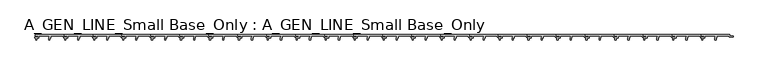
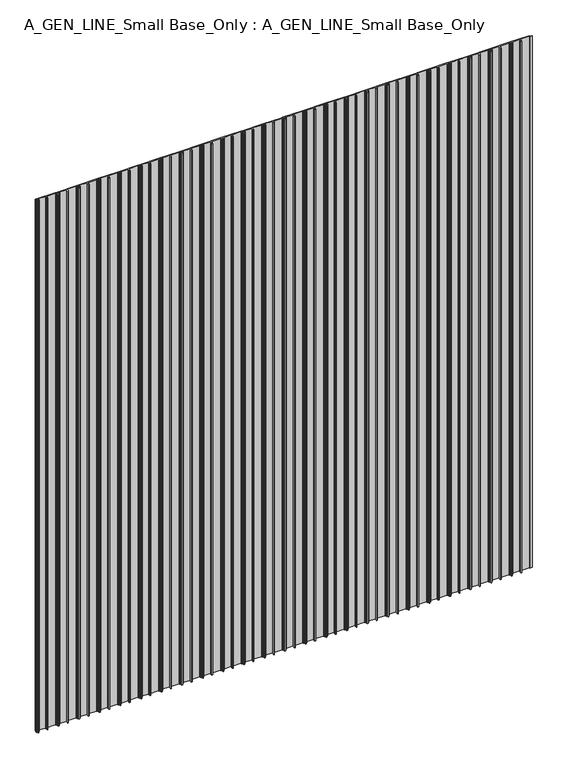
"""IFC4 building model written with IfcOpenShell, lengths in millimetres: proxy geometry, A_GEN_LINE_Small Base_Only : A_GEN_LINE_Small Base_Only."""

from ifc_helpers import new_model, si_unit, origin, origin_with_axes, place, context, project, spatial, polyline, outline, extrude, source, transform, mapped, element, save


def a_gen_line_small_base_only_a_gen_line_small_base_only_1122f738(model_context):
    return source(origin(), model_context, "Body", "SweptSolid", [
        extrude(outline(polyline([(1265.0, 0.0), (1319.5728944, 0.0), (1319.5728944, -2.85), (1325.5728944, -2.85), (1325.5728944, -4.2), (1318.0545393, -4.2), (1318.0545393, -2.4), (1294.5849719, -2.4), (1294.5849719, -6.1021884), (1293.4699984, -6.1021884), (1291.8814326, -8.4994005), (1293.1433665, -8.4994005), (1293.1433665, -10.4818695), (1290.9408405, -10.4818695), (1290.9408405, -5.6343123), (1293.0399616, -2.4), (1272.2195527, -2.4), (1272.2195527, -6.1), (1268.2291033, -6.1), (1268.2291033, -10.4818695), (1266.0265772, -10.4818695), (1266.0265772, -8.4994005), (1267.2885111, -8.4994005), (1265.6999453, -6.1021884), (1264.6137598, -6.1021884), (1264.6137598, -4.9), (1271.0195527, -4.9), (1271.0195527, -2.7), (1265.0, -2.7), (1265.0, 0.0)])), origin_with_axes(), (0.0, 0.0, 1.0), 1500.0),
        extrude(outline(polyline([(1210.0, 0.0), (1264.5728944, 0.0), (1264.5728944, -2.85), (1270.5728944, -2.85), (1270.5728944, -4.2), (1263.0545393, -4.2), (1263.0545393, -2.4), (1239.5849719, -2.4), (1239.5849719, -6.1021884), (1238.4699984, -6.1021884), (1236.8814326, -8.4994005), (1238.1433665, -8.4994005), (1238.1433665, -10.4818695), (1235.9408405, -10.4818695), (1235.9408405, -5.6343123), (1238.0399616, -2.4), (1217.2195527, -2.4), (1217.2195527, -6.1), (1213.2291033, -6.1), (1213.2291033, -10.4818695), (1211.0265772, -10.4818695), (1211.0265772, -8.4994005), (1212.2885111, -8.4994005), (1210.6999453, -6.1021884), (1209.6137598, -6.1021884), (1209.6137598, -4.9), (1216.0195527, -4.9), (1216.0195527, -2.7), (1210.0, -2.7), (1210.0, 0.0)])), origin_with_axes(), (0.0, 0.0, 1.0), 1500.0),
        extrude(outline(polyline([(1155.0, 0.0), (1209.5728944, 0.0), (1209.5728944, -2.85), (1215.5728944, -2.85), (1215.5728944, -4.2), (1208.0545393, -4.2), (1208.0545393, -2.4), (1184.5849719, -2.4), (1184.5849719, -6.1021884), (1183.4699984, -6.1021884), (1181.8814326, -8.4994005), (1183.1433665, -8.4994005), (1183.1433665, -10.4818695), (1180.9408405, -10.4818695), (1180.9408405, -5.6343123), (1183.0399616, -2.4), (1162.2195527, -2.4), (1162.2195527, -6.1), (1158.2291033, -6.1), (1158.2291033, -10.4818695), (1156.0265772, -10.4818695), (1156.0265772, -8.4994005), (1157.2885111, -8.4994005), (1155.6999453, -6.1021884), (1154.6137598, -6.1021884), (1154.6137598, -4.9), (1161.0195527, -4.9), (1161.0195527, -2.7), (1155.0, -2.7), (1155.0, 0.0)])), origin_with_axes(), (0.0, 0.0, 1.0), 1500.0),
        extrude(outline(polyline([(1100.0, 0.0), (1154.5728944, 0.0), (1154.5728944, -2.85), (1160.5728944, -2.85), (1160.5728944, -4.2), (1153.0545393, -4.2), (1153.0545393, -2.4), (1129.5849719, -2.4), (1129.5849719, -6.1021884), (1128.4699984, -6.1021884), (1126.8814326, -8.4994005), (1128.1433665, -8.4994005), (1128.1433665, -10.4818695), (1125.9408405, -10.4818695), (1125.9408405, -5.6343123), (1128.0399616, -2.4), (1107.2195527, -2.4), (1107.2195527, -6.1), (1103.2291033, -6.1), (1103.2291033, -10.4818695), (1101.0265772, -10.4818695), (1101.0265772, -8.4994005), (1102.2885111, -8.4994005), (1100.6999453, -6.1021884), (1099.6137598, -6.1021884), (1099.6137598, -4.9), (1106.0195527, -4.9), (1106.0195527, -2.7), (1100.0, -2.7), (1100.0, 0.0)])), origin_with_axes(), (0.0, 0.0, 1.0), 1500.0),
        extrude(outline(polyline([(1045.0, 0.0), (1099.5728944, 0.0), (1099.5728944, -2.85), (1105.5728944, -2.85), (1105.5728944, -4.2), (1098.0545393, -4.2), (1098.0545393, -2.4), (1074.5849719, -2.4), (1074.5849719, -6.1021884), (1073.4699984, -6.1021884), (1071.8814326, -8.4994005), (1073.1433665, -8.4994005), (1073.1433665, -10.4818695), (1070.9408405, -10.4818695), (1070.9408405, -5.6343123), (1073.0399616, -2.4), (1052.2195527, -2.4), (1052.2195527, -6.1), (1048.2291033, -6.1), (1048.2291033, -10.4818695), (1046.0265772, -10.4818695), (1046.0265772, -8.4994005), (1047.2885111, -8.4994005), (1045.6999453, -6.1021884), (1044.6137598, -6.1021884), (1044.6137598, -4.9), (1051.0195527, -4.9), (1051.0195527, -2.7), (1045.0, -2.7), (1045.0, 0.0)])), origin_with_axes(), (0.0, 0.0, 1.0), 1500.0),
        extrude(outline(polyline([(990.0, 0.0), (1044.5728944, 0.0), (1044.5728944, -2.85), (1050.5728944, -2.85), (1050.5728944, -4.2), (1043.0545393, -4.2), (1043.0545393, -2.4), (1019.5849719, -2.4), (1019.5849719, -6.1021884), (1018.4699984, -6.1021884), (1016.8814326, -8.4994005), (1018.1433665, -8.4994005), (1018.1433665, -10.4818695), (1015.9408405, -10.4818695), (1015.9408405, -5.6343123), (1018.0399616, -2.4), (997.2195527, -2.4), (997.2195527, -6.1), (993.2291033, -6.1), (993.2291033, -10.4818695), (991.0265772, -10.4818695), (991.0265772, -8.4994005), (992.2885111, -8.4994005), (990.6999453, -6.1021884), (989.6137598, -6.1021884), (989.6137598, -4.9), (996.0195527, -4.9), (996.0195527, -2.7), (990.0, -2.7), (990.0, 0.0)])), origin_with_axes(), (0.0, 0.0, 1.0), 1500.0),
        extrude(outline(polyline([(935.0, 0.0), (989.5728944, 0.0), (989.5728944, -2.85), (995.5728944, -2.85), (995.5728944, -4.2), (988.0545393, -4.2), (988.0545393, -2.4), (964.5849719, -2.4), (964.5849719, -6.1021884), (963.4699984, -6.1021884), (961.8814326, -8.4994005), (963.1433665, -8.4994005), (963.1433665, -10.4818695), (960.9408405, -10.4818695), (960.9408405, -5.6343123), (963.0399616, -2.4), (942.2195527, -2.4), (942.2195527, -6.1), (938.2291033, -6.1), (938.2291033, -10.4818695), (936.0265772, -10.4818695), (936.0265772, -8.4994005), (937.2885111, -8.4994005), (935.6999453, -6.1021884), (934.6137598, -6.1021884), (934.6137598, -4.9), (941.0195527, -4.9), (941.0195527, -2.7), (935.0, -2.7), (935.0, 0.0)])), origin_with_axes(), (0.0, 0.0, 1.0), 1500.0),
        extrude(outline(polyline([(880.0, 0.0), (934.5728944, 0.0), (934.5728944, -2.85), (940.5728944, -2.85), (940.5728944, -4.2), (933.0545393, -4.2), (933.0545393, -2.4), (909.5849719, -2.4), (909.5849719, -6.1021884), (908.4699984, -6.1021884), (906.8814326, -8.4994005), (908.1433665, -8.4994005), (908.1433665, -10.4818695), (905.9408405, -10.4818695), (905.9408405, -5.6343123), (908.0399616, -2.4), (887.2195527, -2.4), (887.2195527, -6.1), (883.2291033, -6.1), (883.2291033, -10.4818695), (881.0265772, -10.4818695), (881.0265772, -8.4994005), (882.2885111, -8.4994005), (880.6999453, -6.1021884), (879.6137598, -6.1021884), (879.6137598, -4.9), (886.0195527, -4.9), (886.0195527, -2.7), (880.0, -2.7), (880.0, 0.0)])), origin_with_axes(), (0.0, 0.0, 1.0), 1500.0),
        extrude(outline(polyline([(825.0, 0.0), (879.5728944, 0.0), (879.5728944, -2.85), (885.5728944, -2.85), (885.5728944, -4.2), (878.0545393, -4.2), (878.0545393, -2.4), (854.5849719, -2.4), (854.5849719, -6.1021884), (853.4699984, -6.1021884), (851.8814326, -8.4994005), (853.1433665, -8.4994005), (853.1433665, -10.4818695), (850.9408405, -10.4818695), (850.9408405, -5.6343123), (853.0399616, -2.4), (832.2195527, -2.4), (832.2195527, -6.1), (828.2291033, -6.1), (828.2291033, -10.4818695), (826.0265772, -10.4818695), (826.0265772, -8.4994005), (827.2885111, -8.4994005), (825.6999453, -6.1021884), (824.6137598, -6.1021884), (824.6137598, -4.9), (831.0195527, -4.9), (831.0195527, -2.7), (825.0, -2.7), (825.0, 0.0)])), origin_with_axes(), (0.0, 0.0, 1.0), 1500.0),
        extrude(outline(polyline([(770.0, 0.0), (824.5728944, 0.0), (824.5728944, -2.85), (830.5728944, -2.85), (830.5728944, -4.2), (823.0545393, -4.2), (823.0545393, -2.4), (799.5849719, -2.4), (799.5849719, -6.1021884), (798.4699984, -6.1021884), (796.8814326, -8.4994005), (798.1433665, -8.4994005), (798.1433665, -10.4818695), (795.9408405, -10.4818695), (795.9408405, -5.6343123), (798.0399616, -2.4), (777.2195527, -2.4), (777.2195527, -6.1), (773.2291033, -6.1), (773.2291033, -10.4818695), (771.0265772, -10.4818695), (771.0265772, -8.4994005), (772.2885111, -8.4994005), (770.6999453, -6.1021884), (769.6137598, -6.1021884), (769.6137598, -4.9), (776.0195527, -4.9), (776.0195527, -2.7), (770.0, -2.7), (770.0, 0.0)])), origin_with_axes(), (0.0, 0.0, 1.0), 1500.0),
        extrude(outline(polyline([(715.0, 0.0), (769.5728944, 0.0), (769.5728944, -2.85), (775.5728944, -2.85), (775.5728944, -4.2), (768.0545393, -4.2), (768.0545393, -2.4), (744.5849719, -2.4), (744.5849719, -6.1021884), (743.4699984, -6.1021884), (741.8814326, -8.4994005), (743.1433665, -8.4994005), (743.1433665, -10.4818695), (740.9408405, -10.4818695), (740.9408405, -5.6343123), (743.0399616, -2.4), (722.2195527, -2.4), (722.2195527, -6.1), (718.2291033, -6.1), (718.2291033, -10.4818695), (716.0265772, -10.4818695), (716.0265772, -8.4994005), (717.2885111, -8.4994005), (715.6999453, -6.1021884), (714.6137598, -6.1021884), (714.6137598, -4.9), (721.0195527, -4.9), (721.0195527, -2.7), (715.0, -2.7), (715.0, 0.0)])), origin_with_axes(), (0.0, 0.0, 1.0), 1500.0),
        extrude(outline(polyline([(660.0, 0.0), (714.5728944, 0.0), (714.5728944, -2.85), (720.5728944, -2.85), (720.5728944, -4.2), (713.0545393, -4.2), (713.0545393, -2.4), (689.5849719, -2.4), (689.5849719, -6.1021884), (688.4699984, -6.1021884), (686.8814326, -8.4994005), (688.1433665, -8.4994005), (688.1433665, -10.4818695), (685.9408405, -10.4818695), (685.9408405, -5.6343123), (688.0399616, -2.4), (667.2195527, -2.4), (667.2195527, -6.1), (663.2291033, -6.1), (663.2291033, -10.4818695), (661.0265772, -10.4818695), (661.0265772, -8.4994005), (662.2885111, -8.4994005), (660.6999453, -6.1021884), (659.6137598, -6.1021884), (659.6137598, -4.9), (666.0195527, -4.9), (666.0195527, -2.7), (660.0, -2.7), (660.0, 0.0)])), origin_with_axes(), (0.0, 0.0, 1.0), 1500.0),
        extrude(outline(polyline([(605.0, 0.0), (659.5728944, 0.0), (659.5728944, -2.85), (665.5728944, -2.85), (665.5728944, -4.2), (658.0545393, -4.2), (658.0545393, -2.4), (634.5849719, -2.4), (634.5849719, -6.1021884), (633.4699984, -6.1021884), (631.8814326, -8.4994005), (633.1433665, -8.4994005), (633.1433665, -10.4818695), (630.9408405, -10.4818695), (630.9408405, -5.6343123), (633.0399616, -2.4), (612.2195527, -2.4), (612.2195527, -6.1), (608.2291033, -6.1), (608.2291033, -10.4818695), (606.0265772, -10.4818695), (606.0265772, -8.4994005), (607.2885111, -8.4994005), (605.6999453, -6.1021884), (604.6137598, -6.1021884), (604.6137598, -4.9), (611.0195527, -4.9), (611.0195527, -2.7), (605.0, -2.7), (605.0, 0.0)])), origin_with_axes(), (0.0, 0.0, 1.0), 1500.0),
        extrude(outline(polyline([(550.0, 0.0), (604.5728944, 0.0), (604.5728944, -2.85), (610.5728944, -2.85), (610.5728944, -4.2), (603.0545393, -4.2), (603.0545393, -2.4), (579.5849719, -2.4), (579.5849719, -6.1021884), (578.4699984, -6.1021884), (576.8814326, -8.4994005), (578.1433665, -8.4994005), (578.1433665, -10.4818695), (575.9408405, -10.4818695), (575.9408405, -5.6343123), (578.0399616, -2.4), (557.2195527, -2.4), (557.2195527, -6.1), (553.2291033, -6.1), (553.2291033, -10.4818695), (551.0265772, -10.4818695), (551.0265772, -8.4994005), (552.2885111, -8.4994005), (550.6999453, -6.1021884), (549.6137598, -6.1021884), (549.6137598, -4.9), (556.0195527, -4.9), (556.0195527, -2.7), (550.0, -2.7), (550.0, 0.0)])), origin_with_axes(), (0.0, 0.0, 1.0), 1500.0),
        extrude(outline(polyline([(495.0, 0.0), (549.5728944, 0.0), (549.5728944, -2.85), (555.5728944, -2.85), (555.5728944, -4.2), (548.0545393, -4.2), (548.0545393, -2.4), (524.5849719, -2.4), (524.5849719, -6.1021884), (523.4699984, -6.1021884), (521.8814326, -8.4994005), (523.1433665, -8.4994005), (523.1433665, -10.4818695), (520.9408405, -10.4818695), (520.9408405, -5.6343123), (523.0399616, -2.4), (502.2195527, -2.4), (502.2195527, -6.1), (498.2291033, -6.1), (498.2291033, -10.4818695), (496.0265772, -10.4818695), (496.0265772, -8.4994005), (497.2885111, -8.4994005), (495.6999453, -6.1021884), (494.6137598, -6.1021884), (494.6137598, -4.9), (501.0195527, -4.9), (501.0195527, -2.7), (495.0, -2.7), (495.0, 0.0)])), origin_with_axes(), (0.0, 0.0, 1.0), 1500.0),
        extrude(outline(polyline([(440.0, 0.0), (494.5728944, 0.0), (494.5728944, -2.85), (500.5728944, -2.85), (500.5728944, -4.2), (493.0545393, -4.2), (493.0545393, -2.4), (469.5849719, -2.4), (469.5849719, -6.1021884), (468.4699984, -6.1021884), (466.8814326, -8.4994005), (468.1433665, -8.4994005), (468.1433665, -10.4818695), (465.9408405, -10.4818695), (465.9408405, -5.6343123), (468.0399616, -2.4), (447.2195527, -2.4), (447.2195527, -6.1), (443.2291033, -6.1), (443.2291033, -10.4818695), (441.0265772, -10.4818695), (441.0265772, -8.4994005), (442.2885111, -8.4994005), (440.6999453, -6.1021884), (439.6137598, -6.1021884), (439.6137598, -4.9), (446.0195527, -4.9), (446.0195527, -2.7), (440.0, -2.7), (440.0, 0.0)])), origin_with_axes(), (0.0, 0.0, 1.0), 1500.0),
        extrude(outline(polyline([(385.0, 0.0), (439.5728944, 0.0), (439.5728944, -2.85), (445.5728944, -2.85), (445.5728944, -4.2), (438.0545393, -4.2), (438.0545393, -2.4), (414.5849719, -2.4), (414.5849719, -6.1021884), (413.4699984, -6.1021884), (411.8814326, -8.4994005), (413.1433665, -8.4994005), (413.1433665, -10.4818695), (410.9408405, -10.4818695), (410.9408405, -5.6343123), (413.0399616, -2.4), (392.2195527, -2.4), (392.2195527, -6.1), (388.2291033, -6.1), (388.2291033, -10.4818695), (386.0265772, -10.4818695), (386.0265772, -8.4994005), (387.2885111, -8.4994005), (385.6999453, -6.1021884), (384.6137598, -6.1021884), (384.6137598, -4.9), (391.0195527, -4.9), (391.0195527, -2.7), (385.0, -2.7), (385.0, 0.0)])), origin_with_axes(), (0.0, 0.0, 1.0), 1500.0),
        extrude(outline(polyline([(330.0, 0.0), (384.5728944, 0.0), (384.5728944, -2.85), (390.5728944, -2.85), (390.5728944, -4.2), (383.0545393, -4.2), (383.0545393, -2.4), (359.5849719, -2.4), (359.5849719, -6.1021884), (358.4699984, -6.1021884), (356.8814326, -8.4994005), (358.1433665, -8.4994005), (358.1433665, -10.4818695), (355.9408405, -10.4818695), (355.9408405, -5.6343123), (358.0399616, -2.4), (337.2195527, -2.4), (337.2195527, -6.1), (333.2291033, -6.1), (333.2291033, -10.4818695), (331.0265772, -10.4818695), (331.0265772, -8.4994005), (332.2885111, -8.4994005), (330.6999453, -6.1021884), (329.6137598, -6.1021884), (329.6137598, -4.9), (336.0195527, -4.9), (336.0195527, -2.7), (330.0, -2.7), (330.0, 0.0)])), origin_with_axes(), (0.0, 0.0, 1.0), 1500.0),
        extrude(outline(polyline([(275.0, 0.0), (329.5728944, 0.0), (329.5728944, -2.85), (335.5728944, -2.85), (335.5728944, -4.2), (328.0545393, -4.2), (328.0545393, -2.4), (304.5849719, -2.4), (304.5849719, -6.1021884), (303.4699984, -6.1021884), (301.8814326, -8.4994005), (303.1433665, -8.4994005), (303.1433665, -10.4818695), (300.9408405, -10.4818695), (300.9408405, -5.6343123), (303.0399616, -2.4), (282.2195527, -2.4), (282.2195527, -6.1), (278.2291033, -6.1), (278.2291033, -10.4818695), (276.0265772, -10.4818695), (276.0265772, -8.4994005), (277.2885111, -8.4994005), (275.6999453, -6.1021884), (274.6137598, -6.1021884), (274.6137598, -4.9), (281.0195527, -4.9), (281.0195527, -2.7), (275.0, -2.7), (275.0, 0.0)])), origin_with_axes(), (0.0, 0.0, 1.0), 1500.0),
        extrude(outline(polyline([(220.0, 0.0), (274.5728944, 0.0), (274.5728944, -2.85), (280.5728944, -2.85), (280.5728944, -4.2), (273.0545393, -4.2), (273.0545393, -2.4), (249.5849719, -2.4), (249.5849719, -6.1021884), (248.4699984, -6.1021884), (246.8814326, -8.4994005), (248.1433665, -8.4994005), (248.1433665, -10.4818695), (245.9408405, -10.4818695), (245.9408405, -5.6343123), (248.0399616, -2.4), (227.2195527, -2.4), (227.2195527, -6.1), (223.2291033, -6.1), (223.2291033, -10.4818695), (221.0265772, -10.4818695), (221.0265772, -8.4994005), (222.2885111, -8.4994005), (220.6999453, -6.1021884), (219.6137598, -6.1021884), (219.6137598, -4.9), (226.0195527, -4.9), (226.0195527, -2.7), (220.0, -2.7), (220.0, 0.0)])), origin_with_axes(), (0.0, 0.0, 1.0), 1500.0),
        extrude(outline(polyline([(165.0, 0.0), (219.5728944, 0.0), (219.5728944, -2.85), (225.5728944, -2.85), (225.5728944, -4.2), (218.0545393, -4.2), (218.0545393, -2.4), (194.5849719, -2.4), (194.5849719, -6.1021884), (193.4699984, -6.1021884), (191.8814326, -8.4994005), (193.1433665, -8.4994005), (193.1433665, -10.4818695), (190.9408405, -10.4818695), (190.9408405, -5.6343123), (193.0399616, -2.4), (172.2195527, -2.4), (172.2195527, -6.1), (168.2291033, -6.1), (168.2291033, -10.4818695), (166.0265772, -10.4818695), (166.0265772, -8.4994005), (167.2885111, -8.4994005), (165.6999453, -6.1021884), (164.6137598, -6.1021884), (164.6137598, -4.9), (171.0195527, -4.9), (171.0195527, -2.7), (165.0, -2.7), (165.0, 0.0)])), origin_with_axes(), (0.0, 0.0, 1.0), 1500.0),
        extrude(outline(polyline([(110.0, 0.0), (164.5728944, 0.0), (164.5728944, -2.85), (170.5728944, -2.85), (170.5728944, -4.2), (163.0545393, -4.2), (163.0545393, -2.4), (139.5849719, -2.4), (139.5849719, -6.1021884), (138.4699984, -6.1021884), (136.8814326, -8.4994005), (138.1433665, -8.4994005), (138.1433665, -10.4818695), (135.9408405, -10.4818695), (135.9408405, -5.6343123), (138.0399616, -2.4), (117.2195527, -2.4), (117.2195527, -6.1), (113.2291033, -6.1), (113.2291033, -10.4818695), (111.0265772, -10.4818695), (111.0265772, -8.4994005), (112.2885111, -8.4994005), (110.6999453, -6.1021884), (109.6137598, -6.1021884), (109.6137598, -4.9), (116.0195527, -4.9), (116.0195527, -2.7), (110.0, -2.7), (110.0, 0.0)])), origin_with_axes(), (0.0, 0.0, 1.0), 1500.0),
        extrude(outline(polyline([(55.0, 0.0), (109.5728944, 0.0), (109.5728944, -2.85), (115.5728944, -2.85), (115.5728944, -4.2), (108.0545393, -4.2), (108.0545393, -2.4), (84.5849719, -2.4), (84.5849719, -6.1021884), (83.4699984, -6.1021884), (81.8814326, -8.4994005), (83.1433665, -8.4994005), (83.1433665, -10.4818695), (80.9408405, -10.4818695), (80.9408405, -5.6343123), (83.0399616, -2.4), (62.2195527, -2.4), (62.2195527, -6.1), (58.2291033, -6.1), (58.2291033, -10.4818695), (56.0265772, -10.4818695), (56.0265772, -8.4994005), (57.2885111, -8.4994005), (55.6999453, -6.1021884), (54.6137598, -6.1021884), (54.6137598, -4.9), (61.0195527, -4.9), (61.0195527, -2.7), (55.0, -2.7), (55.0, 0.0)])), origin_with_axes(), (0.0, 0.0, 1.0), 1500.0),
        extrude(outline(polyline([(0.0, 0.0), (54.5728944, 0.0), (54.5728944, -2.85), (60.5728944, -2.85), (60.5728944, -4.2), (53.0545393, -4.2), (53.0545393, -2.4), (29.5849719, -2.4), (29.5849719, -6.1021884), (28.4699984, -6.1021884), (26.8814326, -8.4994005), (28.1433665, -8.4994005), (28.1433665, -10.4818695), (25.9408405, -10.4818695), (25.9408405, -5.6343123), (28.0399616, -2.4), (7.2195527, -2.4), (7.2195527, -6.1), (3.2291033, -6.1), (3.2291033, -10.4818695), (1.0265772, -10.4818695), (1.0265772, -8.4994005), (2.2885111, -8.4994005), (0.6999453, -6.1021884), (-0.3862402, -6.1021884), (-0.3862402, -4.9), (6.0195527, -4.9), (6.0195527, -2.7), (0.0, -2.7), (0.0, 0.0)])), origin_with_axes(), (0.0, 0.0, 1.0), 1500.0),
    ])


if __name__ == "__main__":
    model = new_model("IFC4")
    model_context = context("Model", 3, world=origin())
    ifc_project = project(units=[si_unit("LENGTHUNIT", "METRE", prefix="MILLI")], contexts=[model_context])
    site = spatial("IfcSite", under=ifc_project)
    building = spatial("IfcBuilding", under=site)
    placement = place(None, origin())
    a_gen_line_small_base_only_a_gen_line_small_base_only_shape = a_gen_line_small_base_only_a_gen_line_small_base_only_1122f738(model_context)
    element("IfcBuildingElementProxy", 1, Name="A_GEN_LINE_Small Base_Only : A_GEN_LINE_Small Base_Only", ObjectType="A_GEN_LINE_Small Base_Only : A_GEN_LINE_Small Base_Only", at=placement, inside=building, context=model_context, shape_type="MappedRepresentation", body=[
        mapped(a_gen_line_small_base_only_a_gen_line_small_base_only_shape, transform((0.0, 0.0, 0.0), x_axis=(1.0, 0.0, 0.0), y_axis=(0.0, 1.0, 0.0), z_axis=(0.0, 0.0, 1.0))),
    ])
    save(model, "model.ifc")
